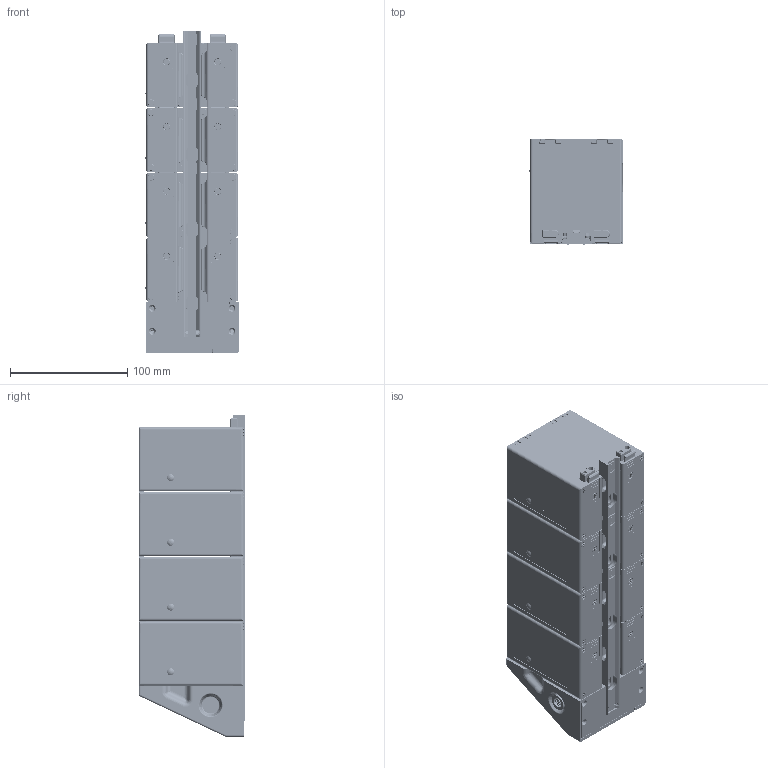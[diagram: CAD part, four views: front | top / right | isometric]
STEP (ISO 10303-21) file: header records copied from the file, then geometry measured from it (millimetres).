
FILE_DESCRIPTION (( 'STEP AP214' ), '1' );
FILE_NAME ('LGX 4X Basic Dock.STEP', '2025-11-04T01:02:15', ( '' ), ( '' ), 'SwSTEP 2.0', 'SolidWorks 2021', '' );
FILE_SCHEMA (( 'AUTOMOTIVE_DESIGN' ));
Length unit declared in the file: millimetre
Products named in the file (22): LXG Single Module_B2 Rear Locked; LGX-Encl_Extrusion Profile; LGX_TLock; XT60M; LXG Single Module_B2 Locked; ST3 Plug; LG10X-Top_InjectionMolding; LGX-Latch; LGX Cell Assembly; LGX-Rail_Rail x4; M3 Screw_M3x12; LGX-Dock R3_Shell Only; LGX-Ovl; LiGo 10X PCB P5; LGX-Dock R3_Dock Only; LGX-Base_InjectionMolded; LXG Single Module_B2 Front Locked; XT60F; M3 Screw_M3x18; M3 Screw_M3x5; LGX 4X Basic Dock
Assembly tree (94 placements, depth 4):
  LGX 4X Basic Dock
    LGX-Rail_Rail x4
    LGX-Dock R3_Dock Only
    XT60F  x2
    LGX-Dock R3_Shell Only
    LXG Single Module_B2 Front Locked
      LG10X-Top_InjectionMolding
      LGX-Encl_Extrusion Profile
      LGX-Base_InjectionMolded
      LGX Cell Assembly
        XT60F  x2
        XT60M  x2
        LiGo 10X PCB P5
      LGX-Latch  x2
      LGX-Ovl
      LGX_TLock  x4
      M3 Screw_M3x18  x4
      M3 Screw_M3x5  x2
      M3 Screw_M3x12  x8
    LXG Single Module_B2 Locked  x2
      LG10X-Top_InjectionMolding
      LGX-Encl_Extrusion Profile
      LGX-Base_InjectionMolded
      LGX Cell Assembly
        XT60F  x2
        XT60M  x2
      LGX-Latch
      LGX-Ovl
      LGX_TLock
      M3 Screw_M3x18
      M3 Screw_M3x5
      M3 Screw_M3x12
    LXG Single Module_B2 Rear Locked
      LG10X-Top_InjectionMolding
      LGX-Encl_Extrusion Profile
      LGX-Base_InjectionMolded
      LGX Cell Assembly
        XT60F  x2
        XT60M  x2
      LGX-Latch  x2
      LGX-Ovl
      LGX_TLock  x4
      M3 Screw_M3x18  x4
      M3 Screw_M3x5  x2
      M3 Screw_M3x12  x8
    ST3 Plug
Bounding box: 79.35 x 90.67 x 274.24 mm (x, y, z)
Volume: 469789.7 mm3; surface area: 437589 mm2
Topology: 181 solids, 181 shells, 17778 faces, 43853 edges, 26141 vertices
Faces by surface type: cylinder 6034, plane 4606, bspline 4172, torus 1940, cone 954, sphere 72
Entity records: 153337 total; most frequent: CARTESIAN_POINT 49491, ORIENTED_EDGE 21748, DIRECTION 19696, EDGE_CURVE 10874, AXIS2_PLACEMENT_3D 7473, VERTEX_POINT 6630, VECTOR 4750, LINE 4750
